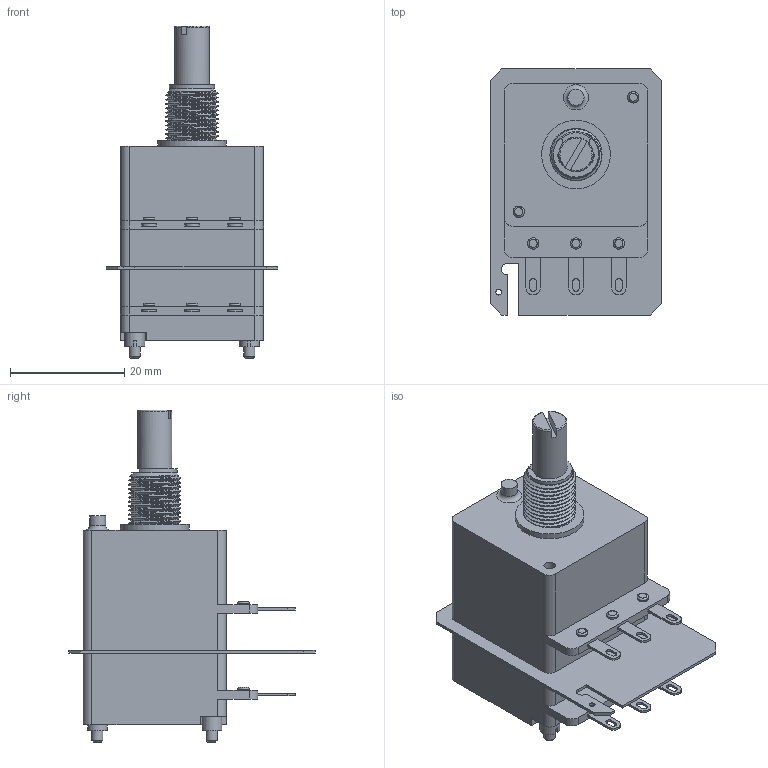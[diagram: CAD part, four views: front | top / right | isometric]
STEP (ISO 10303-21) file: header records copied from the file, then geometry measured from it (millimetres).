
FILE_DESCRIPTION(('FreeCAD Model'),'2;1');
FILE_NAME('Open CASCADE Shape Model','2026-07-14T17:17:13',(''),(''), 'Open CASCADE STEP processor 7.8','FreeCAD','Unknown');
FILE_SCHEMA(('AUTOMOTIVE_DESIGN { 1 0 10303 214 1 1 1 1 }'));
Length unit declared in the file: millimetre
Products named in the file (1): 2CP25XX-S-6S20
Bounding box: 30 x 43 x 58 mm (x, y, z)
Volume: 22723.8 mm3; surface area: 8591.9 mm2
Topology: 1 solids, 10 shells, 300 faces, 757 edges, 496 vertices
Faces by surface type: plane 157, cylinder 89, bspline 38, torus 10, cone 6
Full cylindrical faces by diameter (mm): 1 x1, 1.9 x6, 2 x14, 2.2 x8, 2.8 x1, 3.5 x2, 4.5 x2, 5.4 x1, 6 x1, 6.05 x1, 8 x1, 9 x1, 12 x1
Entity records: 14695 total; most frequent: CARTESIAN_POINT 5992, ORIENTED_EDGE 1512, DIRECTION 1465, EDGE_CURVE 756, AXIS2_PLACEMENT_3D 552, VERTEX_POINT 496, LINE 361, VECTOR 361
